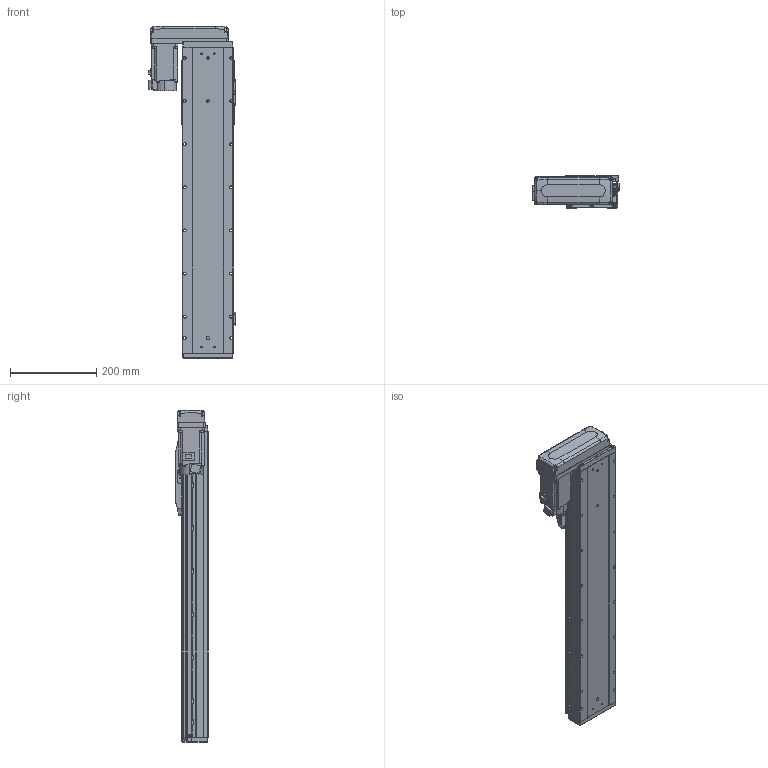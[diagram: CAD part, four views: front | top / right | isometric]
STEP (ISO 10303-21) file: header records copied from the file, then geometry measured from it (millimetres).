
FILE_DESCRIPTION (( 'STEP AP203' ), '1' );
FILE_NAME ('GTH12-500-BR-M40-C4.step', '2025-07-16T03:44:41', ( '' ), ( '' ), 'SwSTEP 2.0', 'SolidWorks 2023', '' );
FILE_SCHEMA (( 'CONFIG_CONTROL_DESIGN' ));
Length unit declared in the file: millimetre
Products named in the file (18): GTH80-028; GTH50-023; BTH-M3X5X6; GTH120-006; CTHA86-033_M40B; hg-kn43j_-s100_; GBT 70.3-M3×8; GBT96.1-2002 3×0.8; GTH120-027-1_GTH120-027-2; GTH120-004; GBT 70.1-M3×6; GTH50-024; GTH120-003; GBT 70.1-M5×16; GTH120-013; GTH80-022; GTH12-500-BR-M40-C4; GTH120-001_500
Assembly tree (59 placements, depth 2):
  GTH12-500-BR-M40-C4
    GTH120-001_500
    GTH120-003
    GTH120-006
    GTH120-004
    GTH120-013
    GBT 70.1-M3×6  x14
    GBT 70.1-M5×16  x10
    GBT 70.3-M3×8  x4
    GTH80-022
    GTH80-028  x2
    GTH50-023  x3
    GTH50-024  x3
    GBT96.1-2002 3×0.8  x6
    BTH-M3X5X6  x8
    hg-kn43j_-s100_
    CTHA86-033_M40B
    GTH120-027-1_GTH120-027-2
Bounding box: 203.5 x 76 x 770.5 mm (x, y, z)
Volume: 5875219.4 mm3; surface area: 573283.4 mm2
Topology: 61 solids, 61 shells, 2430 faces, 5661 edges, 3473 vertices
Faces by surface type: plane 1256, cylinder 698, cone 288, torus 174, sphere 8, bspline 6
Entity records: 45163 total; most frequent: CARTESIAN_POINT 7650, DIRECTION 7465, ORIENTED_EDGE 6932, EDGE_CURVE 3466, AXIS2_PLACEMENT_3D 2609, VECTOR 2247, LINE 2247, VERTEX_POINT 2194
